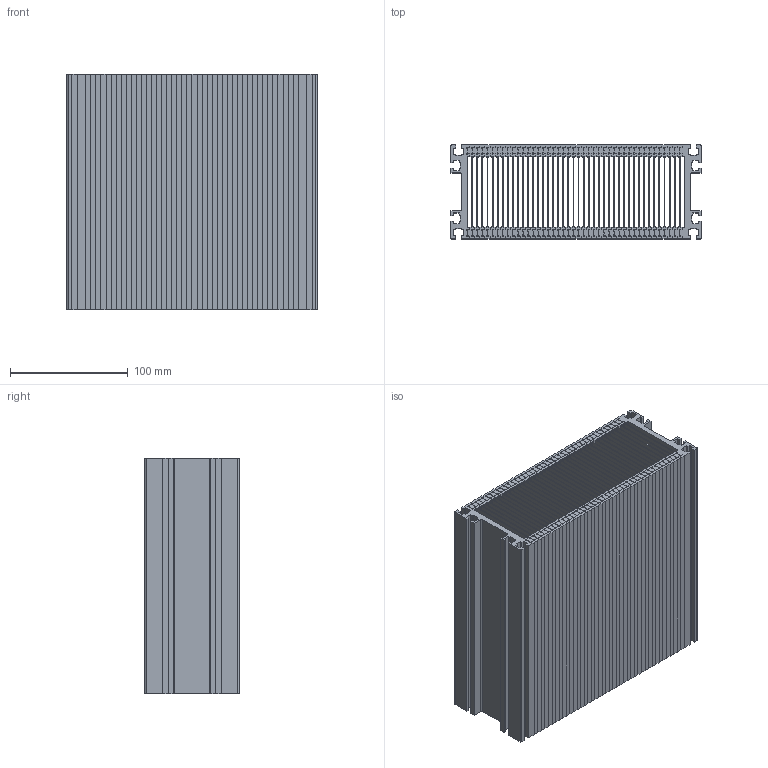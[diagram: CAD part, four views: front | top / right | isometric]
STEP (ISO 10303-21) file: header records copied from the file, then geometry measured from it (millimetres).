
FILE_DESCRIPTION (( 'STEP AP214' ), '1' );
FILE_NAME ('LK40_komplett.STEP', '2013-08-02T06:19:30', ( '' ), ( '' ), 'SwSTEP 2.0', 'SolidWorks 2013', '' );
FILE_SCHEMA (( 'AUTOMOTIVE_DESIGN' ));
Length unit declared in the file: millimetre
Products named in the file (6): LK40_komplett; LK10_innen; LK_10_363,5_innen; LK10_rechts; LK_10_rechts; LK_10_links
Assembly tree (46 placements, depth 3):
  LK40_komplett
    LK_10_links
    LK10_rechts
      LK_10_rechts
    LK10_innen  x42
      LK_10_363,5_innen
Bounding box: 212.6 x 80 x 200 mm (x, y, z)
Volume: 1368066.3 mm3; surface area: 1829909.7 mm2
Topology: 44 solids, 44 shells, 3473 faces, 10155 edges, 6770 vertices
Faces by surface type: plane 2605, cylinder 868
Entity records: 12596 total; most frequent: CARTESIAN_POINT 1671, ORIENTED_EDGE 1614, DIRECTION 1555, EDGE_CURVE 807, LINE 711, VECTOR 711, VERTEX_POINT 538, AXIS2_PLACEMENT_3D 422
